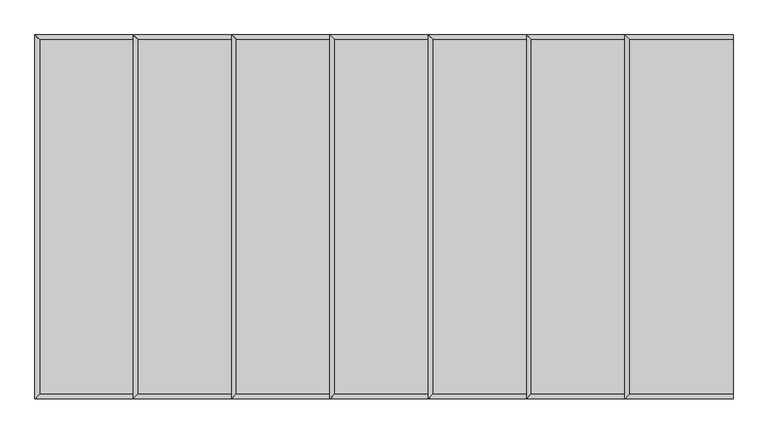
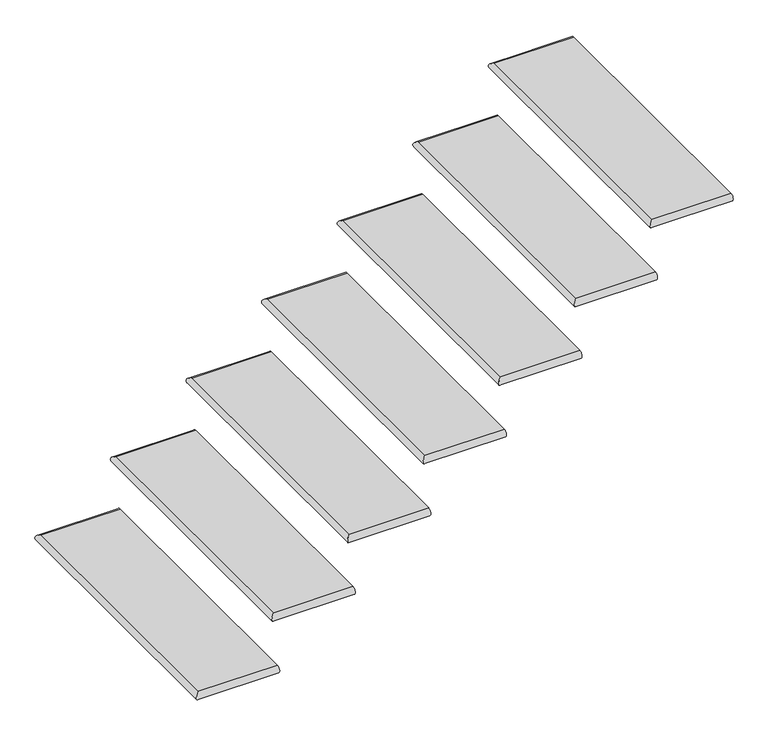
"""IFC4 building model written with IfcOpenShell, lengths in millimetres: stair flight geometry."""

from ifc_helpers import new_model, si_unit, frame, origin, place, context, project, spatial, circle_curve, ellipse_curve, source, transform, mapped, element, save
from ifc_brep_helpers import plane_surface, cylinder_surface, advanced_brep


def stair_flight_d73f07cf(model_context):
    return source(origin(), model_context, "Body", "AdvancedBrep", [
        advanced_brep(
        [(-17769.3481446, -11284.0871906, 165.1), (-17769.3481446, -11284.0871906, 190.5), (-17769.3481446, -10369.6871906, 190.5), (-17769.3481446, -10369.6871906, 165.1), (-17502.6481446, -11284.0871906, 190.5), (-17502.6481446, -10369.6871906, 190.5), (-17502.6481446, -10369.6871906, 165.1), (-17502.6481446, -11284.0871906, 165.1)],
        [
            (0, 1, ellipse_curve(frame((-17769.3481446, -11284.0871906, 177.8), z_axis=(-0.7071067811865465, 0.7071067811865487, 0.0), x_axis=(-0.7071067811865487, -0.7071067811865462, 0.0)), 17.9605122, 12.7)),
            (1, 2),
            (2, 3, ellipse_curve(frame((-17769.3481446, -10369.6871906, 177.8), z_axis=(-0.7071067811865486, -0.7071067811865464, 0.0), x_axis=(0.7071067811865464, -0.7071067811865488, 0.0)), 17.9605122, 12.7)),
            (3, 0),
            (4, 5),
            (5, 2),
            (1, 4),
            (6, 7),
            (7, 0),
            (3, 6),
            (4, 7, circle_curve(frame((-17502.6481446, -11284.0871906, 177.8), z_axis=(1.0, 0.0, 0.0), x_axis=(0.0, 1.0, 0.0)), 12.7)),
            (6, 5, circle_curve(frame((-17502.6481446, -10369.6871906, 177.8), z_axis=(1.0, 0.0, 0.0), x_axis=(0.0, -1.0, 0.0)), 12.7)),
        ],
        [
            cylinder_surface(frame((-17769.3481446, -11284.0871906, 177.8), z_axis=(0.0, -1.0, 0.0), x_axis=(1.0, 0.0, 0.0)), 12.7),
            plane_surface(frame((-17782.0481446, -10369.6871906, 190.5), z_axis=(0.0, 0.0, 1.0), x_axis=(-1.0, 0.0, 0.0))),
            plane_surface(frame((-17782.0481446, -10369.6871906, 165.1), z_axis=(0.0, 0.0, -1.0), x_axis=(1.0, 0.0, 0.0))),
            plane_surface(frame((-17502.6481446, -11284.0871906, 190.5), z_axis=(1.0, 0.0, 0.0), x_axis=(0.0, 0.0, -1.0))),
            cylinder_surface(frame((-17502.6481446, -11284.0871906, 177.8), z_axis=(1.0, 0.0, 0.0), x_axis=(0.0, 1.0, 0.0)), 12.7),
            cylinder_surface(frame((-17769.3481446, -10369.6871906, 177.8), z_axis=(-1.0, 0.0, 0.0), x_axis=(0.0, -1.0, 0.0)), 12.7),
        ],
        [
            (0, [[1, 2, 3, 4]]),
            (1, [[5, 6, -2, 7]]),
            (2, [[8, 9, -4, 10]]),
            (3, [[-5, 11, -8, 12]]),
            (4, [[-11, -7, -1, -9]]),
            (5, [[-3, -6, -12, -10]]),
        ],
    ),
        advanced_brep(
        [(-15978.6481446, -11284.0871906, 1333.5), (-15978.6481446, -10369.6871906, 1333.5), (-16245.3481446, -10369.6871906, 1333.5), (-16245.3481446, -11284.0871906, 1333.5), (-16004.0481446, -11284.0871906, 1333.5), (-15978.6481446, -10369.6871906, 1308.1), (-15978.6481446, -11284.0871906, 1308.1), (-16004.0481446, -11284.0871906, 1308.1), (-16245.3481446, -11284.0871906, 1308.1), (-16245.3481446, -10369.6871906, 1308.1)],
        [
            (0, 1),
            (1, 2),
            (2, 3),
            (3, 4),
            (4, 0),
            (5, 6),
            (6, 7),
            (7, 8),
            (8, 9),
            (9, 5),
            (0, 6, circle_curve(frame((-15978.6481446, -11284.0871906, 1320.8), z_axis=(1.0, 0.0, 0.0), x_axis=(0.0, 1.0, 0.0)), 12.7)),
            (5, 1, circle_curve(frame((-15978.6481446, -10369.6871906, 1320.8), z_axis=(1.0, 0.0, 0.0), x_axis=(0.0, -1.0, 0.0)), 12.7)),
            (8, 3, ellipse_curve(frame((-16245.3481446, -11284.0871906, 1320.8), z_axis=(-0.7071067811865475, 0.7071067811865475, 0.0), x_axis=(-0.7071067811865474, -0.7071067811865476, 0.0)), 17.9605122, 12.7)),
            (2, 9, ellipse_curve(frame((-16245.3481446, -10369.6871906, 1320.8), z_axis=(-0.7071067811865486, -0.7071067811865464, 0.0), x_axis=(0.7071067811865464, -0.7071067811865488, 0.0)), 17.9605122, 12.7)),
        ],
        [
            plane_surface(frame((-17782.0481446, -10369.6871906, 1333.5), z_axis=(0.0, 0.0, 1.0), x_axis=(-1.0, 0.0, 0.0))),
            plane_surface(frame((-17782.0481446, -10369.6871906, 1308.1), z_axis=(0.0, 0.0, -1.0), x_axis=(1.0, 0.0, 0.0))),
            plane_surface(frame((-15978.6481446, -11284.0871906, 1333.5), z_axis=(1.0, 0.0, 0.0), x_axis=(0.0, 0.0, -1.0))),
            cylinder_surface(frame((-16245.3481446, -11284.0871906, 1320.8), z_axis=(0.0, -1.0, 0.0), x_axis=(1.0, 0.0, 0.0)), 12.7),
            cylinder_surface(frame((-15978.6481446, -11284.0871906, 1320.8), z_axis=(1.0, 0.0, 0.0), x_axis=(0.0, 1.0, 0.0)), 12.7),
            cylinder_surface(frame((-16245.3481446, -10369.6871906, 1320.8), z_axis=(-1.0, 0.0, 0.0), x_axis=(0.0, -1.0, 0.0)), 12.7),
        ],
        [
            (0, [[1, 2, 3, 4, 5]]),
            (1, [[6, 7, 8, 9, 10]]),
            (2, [[-1, 11, -6, 12]]),
            (3, [[13, -3, 14, -9]]),
            (4, [[-11, -5, -4, -13, -8, -7]]),
            (5, [[-14, -2, -12, -10]]),
        ],
    ),
        advanced_brep(
        [(-17248.6481446, -11284.0871906, 381.0), (-17248.6481446, -10369.6871906, 381.0), (-17515.3481446, -10369.6871906, 381.0), (-17515.3481446, -11284.0871906, 381.0), (-17248.6481446, -10369.6871906, 355.6), (-17248.6481446, -11284.0871906, 355.6), (-17515.3481446, -11284.0871906, 355.6), (-17515.3481446, -10369.6871906, 355.6)],
        [
            (0, 1),
            (1, 2),
            (2, 3),
            (3, 0),
            (4, 5),
            (5, 6),
            (6, 7),
            (7, 4),
            (0, 5, circle_curve(frame((-17248.6481446, -11284.0871906, 368.3), z_axis=(1.0, 0.0, 0.0), x_axis=(0.0, 1.0, 0.0)), 12.7)),
            (4, 1, circle_curve(frame((-17248.6481446, -10369.6871906, 368.3), z_axis=(1.0, 0.0, 0.0), x_axis=(0.0, -1.0, 0.0)), 12.7)),
            (3, 6, ellipse_curve(frame((-17515.3481446, -11284.0871906, 368.3), z_axis=(0.7071067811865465, -0.7071067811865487, 0.0), x_axis=(0.7071067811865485, 0.7071067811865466, 0.0)), 17.9605122, 12.7)),
            (2, 7, ellipse_curve(frame((-17515.3481446, -10369.6871906, 368.3), z_axis=(-0.7071067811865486, -0.7071067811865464, 0.0), x_axis=(0.7071067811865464, -0.7071067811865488, 0.0)), 17.9605122, 12.7)),
        ],
        [
            plane_surface(frame((-17528.0481446, -10369.6871906, 381.0), z_axis=(0.0, 0.0, 1.0), x_axis=(-1.0, 0.0, 0.0))),
            plane_surface(frame((-17528.0481446, -10369.6871906, 355.6), z_axis=(0.0, 0.0, -1.0), x_axis=(1.0, 0.0, 0.0))),
            plane_surface(frame((-17248.6481446, -11284.0871906, 381.0), z_axis=(1.0, 0.0, 0.0), x_axis=(0.0, 0.0, -1.0))),
            cylinder_surface(frame((-17248.6481446, -11284.0871906, 368.3), z_axis=(1.0, 0.0, 0.0), x_axis=(0.0, 1.0, 0.0)), 12.7),
            cylinder_surface(frame((-17515.3481446, -11284.0871906, 368.3), z_axis=(0.0, -1.0, 0.0), x_axis=(1.0, 0.0, 0.0)), 12.7),
            cylinder_surface(frame((-17515.3481446, -10369.6871906, 368.3), z_axis=(-1.0, 0.0, 0.0), x_axis=(0.0, -1.0, 0.0)), 12.7),
        ],
        [
            (0, [[1, 2, 3, 4]]),
            (1, [[5, 6, 7, 8]]),
            (2, [[-1, 9, -5, 10]]),
            (3, [[-9, -4, 11, -6]]),
            (4, [[-11, -3, 12, -7]]),
            (5, [[-12, -2, -10, -8]]),
        ],
    ),
        advanced_brep(
        [(-16994.6481446, -11284.0871906, 571.5), (-16994.6481446, -10369.6871906, 571.5), (-17261.3481446, -10369.6871906, 571.5), (-17261.3481446, -11284.0871906, 571.5), (-16994.6481446, -10369.6871906, 546.1), (-16994.6481446, -11284.0871906, 546.1), (-17261.3481446, -11284.0871906, 546.1), (-17261.3481446, -10369.6871906, 546.1)],
        [
            (0, 1),
            (1, 2),
            (2, 3),
            (3, 0),
            (4, 5),
            (5, 6),
            (6, 7),
            (7, 4),
            (0, 5, circle_curve(frame((-16994.6481446, -11284.0871906, 558.8), z_axis=(1.0, 0.0, 0.0), x_axis=(0.0, 1.0, 0.0)), 12.7)),
            (4, 1, circle_curve(frame((-16994.6481446, -10369.6871906, 558.8), z_axis=(1.0, 0.0, 0.0), x_axis=(0.0, -1.0, 0.0)), 12.7)),
            (3, 6, ellipse_curve(frame((-17261.3481446, -11284.0871906, 558.8), z_axis=(0.7071067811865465, -0.7071067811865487, 0.0), x_axis=(0.7071067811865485, 0.7071067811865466, 0.0)), 17.9605122, 12.7)),
            (2, 7, ellipse_curve(frame((-17261.3481446, -10369.6871906, 558.8), z_axis=(-0.7071067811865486, -0.7071067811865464, 0.0), x_axis=(0.7071067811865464, -0.7071067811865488, 0.0)), 17.9605122, 12.7)),
        ],
        [
            plane_surface(frame((-17274.0481446, -10369.6871906, 571.5), z_axis=(0.0, 0.0, 1.0), x_axis=(-1.0, 0.0, 0.0))),
            plane_surface(frame((-17274.0481446, -10369.6871906, 546.1), z_axis=(0.0, 0.0, -1.0), x_axis=(1.0, 0.0, 0.0))),
            plane_surface(frame((-16994.6481446, -11284.0871906, 571.5), z_axis=(1.0, 0.0, 0.0), x_axis=(0.0, 0.0, -1.0))),
            cylinder_surface(frame((-16994.6481446, -11284.0871906, 558.8), z_axis=(1.0, 0.0, 0.0), x_axis=(0.0, 1.0, 0.0)), 12.7),
            cylinder_surface(frame((-17261.3481446, -11284.0871906, 558.8), z_axis=(0.0, -1.0, 0.0), x_axis=(1.0, 0.0, 0.0)), 12.7),
            cylinder_surface(frame((-17261.3481446, -10369.6871906, 558.8), z_axis=(-1.0, 0.0, 0.0), x_axis=(0.0, -1.0, 0.0)), 12.7),
        ],
        [
            (0, [[1, 2, 3, 4]]),
            (1, [[5, 6, 7, 8]]),
            (2, [[-1, 9, -5, 10]]),
            (3, [[-9, -4, 11, -6]]),
            (4, [[-11, -3, 12, -7]]),
            (5, [[-12, -2, -10, -8]]),
        ],
    ),
        advanced_brep(
        [(-16740.6481446, -11284.0871906, 762.0), (-16740.6481446, -10369.6871906, 762.0), (-17007.3481446, -10369.6871906, 762.0), (-17007.3481446, -11284.0871906, 762.0), (-16740.6481446, -10369.6871906, 736.6), (-16740.6481446, -11284.0871906, 736.6), (-17007.3481446, -11284.0871906, 736.6), (-17007.3481446, -10369.6871906, 736.6)],
        [
            (0, 1),
            (1, 2),
            (2, 3),
            (3, 0),
            (4, 5),
            (5, 6),
            (6, 7),
            (7, 4),
            (0, 5, circle_curve(frame((-16740.6481446, -11284.0871906, 749.3), z_axis=(1.0, 0.0, 0.0), x_axis=(0.0, 1.0, 0.0)), 12.7)),
            (4, 1, circle_curve(frame((-16740.6481446, -10369.6871906, 749.3), z_axis=(1.0, 0.0, 0.0), x_axis=(0.0, -1.0, 0.0)), 12.7)),
            (3, 6, ellipse_curve(frame((-17007.3481446, -11284.0871906, 749.3), z_axis=(0.7071067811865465, -0.7071067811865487, 0.0), x_axis=(0.7071067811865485, 0.7071067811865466, 0.0)), 17.9605122, 12.7)),
            (2, 7, ellipse_curve(frame((-17007.3481446, -10369.6871906, 749.3), z_axis=(-0.7071067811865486, -0.7071067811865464, 0.0), x_axis=(0.7071067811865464, -0.7071067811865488, 0.0)), 17.9605122, 12.7)),
        ],
        [
            plane_surface(frame((-17020.0481446, -10369.6871906, 762.0), z_axis=(0.0, 0.0, 1.0), x_axis=(-1.0, 0.0, 0.0))),
            plane_surface(frame((-17020.0481446, -10369.6871906, 736.6), z_axis=(0.0, 0.0, -1.0), x_axis=(1.0, 0.0, 0.0))),
            plane_surface(frame((-16740.6481446, -11284.0871906, 762.0), z_axis=(1.0, 0.0, 0.0), x_axis=(0.0, 0.0, -1.0))),
            cylinder_surface(frame((-16740.6481446, -11284.0871906, 749.3), z_axis=(1.0, 0.0, 0.0), x_axis=(0.0, 1.0, 0.0)), 12.7),
            cylinder_surface(frame((-17007.3481446, -11284.0871906, 749.3), z_axis=(0.0, -1.0, 0.0), x_axis=(1.0, 0.0, 0.0)), 12.7),
            cylinder_surface(frame((-17007.3481446, -10369.6871906, 749.3), z_axis=(-1.0, 0.0, 0.0), x_axis=(0.0, -1.0, 0.0)), 12.7),
        ],
        [
            (0, [[1, 2, 3, 4]]),
            (1, [[5, 6, 7, 8]]),
            (2, [[-1, 9, -5, 10]]),
            (3, [[-9, -4, 11, -6]]),
            (4, [[-11, -3, 12, -7]]),
            (5, [[-12, -2, -10, -8]]),
        ],
    ),
        advanced_brep(
        [(-16486.6481446, -11284.0871906, 952.5), (-16486.6481446, -10369.6871906, 952.5), (-16753.3481446, -10369.6871906, 952.5), (-16753.3481446, -11284.0871906, 952.5), (-16486.6481446, -10369.6871906, 927.1), (-16486.6481446, -11284.0871906, 927.1), (-16753.3481446, -11284.0871906, 927.1), (-16753.3481446, -10369.6871906, 927.1)],
        [
            (0, 1),
            (1, 2),
            (2, 3),
            (3, 0),
            (4, 5),
            (5, 6),
            (6, 7),
            (7, 4),
            (0, 5, circle_curve(frame((-16486.6481446, -11284.0871906, 939.8), z_axis=(1.0, 0.0, 0.0), x_axis=(0.0, 1.0, 0.0)), 12.7)),
            (4, 1, circle_curve(frame((-16486.6481446, -10369.6871906, 939.8), z_axis=(1.0, 0.0, 0.0), x_axis=(0.0, -1.0, 0.0)), 12.7)),
            (3, 6, ellipse_curve(frame((-16753.3481446, -11284.0871906, 939.8), z_axis=(0.7071067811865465, -0.7071067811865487, 0.0), x_axis=(0.7071067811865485, 0.7071067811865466, 0.0)), 17.9605122, 12.7)),
            (2, 7, ellipse_curve(frame((-16753.3481446, -10369.6871906, 939.8), z_axis=(-0.7071067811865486, -0.7071067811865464, 0.0), x_axis=(0.7071067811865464, -0.7071067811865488, 0.0)), 17.9605122, 12.7)),
        ],
        [
            plane_surface(frame((-16766.0481446, -10369.6871906, 952.5), z_axis=(0.0, 0.0, 1.0), x_axis=(-1.0, 0.0, 0.0))),
            plane_surface(frame((-16766.0481446, -10369.6871906, 927.1), z_axis=(0.0, 0.0, -1.0), x_axis=(1.0, 0.0, 0.0))),
            plane_surface(frame((-16486.6481446, -11284.0871906, 952.5), z_axis=(1.0, 0.0, 0.0), x_axis=(0.0, 0.0, -1.0))),
            cylinder_surface(frame((-16486.6481446, -11284.0871906, 939.8), z_axis=(1.0, 0.0, 0.0), x_axis=(0.0, 1.0, 0.0)), 12.7),
            cylinder_surface(frame((-16753.3481446, -11284.0871906, 939.8), z_axis=(0.0, -1.0, 0.0), x_axis=(1.0, 0.0, 0.0)), 12.7),
            cylinder_surface(frame((-16753.3481446, -10369.6871906, 939.8), z_axis=(-1.0, 0.0, 0.0), x_axis=(0.0, -1.0, 0.0)), 12.7),
        ],
        [
            (0, [[1, 2, 3, 4]]),
            (1, [[5, 6, 7, 8]]),
            (2, [[-1, 9, -5, 10]]),
            (3, [[-9, -4, 11, -6]]),
            (4, [[-11, -3, 12, -7]]),
            (5, [[-12, -2, -10, -8]]),
        ],
    ),
        advanced_brep(
        [(-16232.6481446, -11284.0871906, 1143.0), (-16232.6481446, -10369.6871906, 1143.0), (-16499.3481446, -10369.6871906, 1143.0), (-16499.3481446, -11284.0871906, 1143.0), (-16232.6481446, -10369.6871906, 1117.6), (-16232.6481446, -11284.0871906, 1117.6), (-16499.3481446, -11284.0871906, 1117.6), (-16499.3481446, -10369.6871906, 1117.6)],
        [
            (0, 1),
            (1, 2),
            (2, 3),
            (3, 0),
            (4, 5),
            (5, 6),
            (6, 7),
            (7, 4),
            (0, 5, circle_curve(frame((-16232.6481446, -11284.0871906, 1130.3), z_axis=(1.0, 0.0, 0.0), x_axis=(0.0, 1.0, 0.0)), 12.7)),
            (4, 1, circle_curve(frame((-16232.6481446, -10369.6871906, 1130.3), z_axis=(1.0, 0.0, 0.0), x_axis=(0.0, -1.0, 0.0)), 12.7)),
            (3, 6, ellipse_curve(frame((-16499.3481446, -11284.0871906, 1130.3), z_axis=(0.7071067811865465, -0.7071067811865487, 0.0), x_axis=(0.7071067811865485, 0.7071067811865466, 0.0)), 17.9605122, 12.7)),
            (2, 7, ellipse_curve(frame((-16499.3481446, -10369.6871906, 1130.3), z_axis=(-0.7071067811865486, -0.7071067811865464, 0.0), x_axis=(0.7071067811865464, -0.7071067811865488, 0.0)), 17.9605122, 12.7)),
        ],
        [
            plane_surface(frame((-16512.0481446, -10369.6871906, 1143.0), z_axis=(0.0, 0.0, 1.0), x_axis=(-1.0, 0.0, 0.0))),
            plane_surface(frame((-16512.0481446, -10369.6871906, 1117.6), z_axis=(0.0, 0.0, -1.0), x_axis=(1.0, 0.0, 0.0))),
            plane_surface(frame((-16232.6481446, -11284.0871906, 1143.0), z_axis=(1.0, 0.0, 0.0), x_axis=(0.0, 0.0, -1.0))),
            cylinder_surface(frame((-16232.6481446, -11284.0871906, 1130.3), z_axis=(1.0, 0.0, 0.0), x_axis=(0.0, 1.0, 0.0)), 12.7),
            cylinder_surface(frame((-16499.3481446, -11284.0871906, 1130.3), z_axis=(0.0, -1.0, 0.0), x_axis=(1.0, 0.0, 0.0)), 12.7),
            cylinder_surface(frame((-16499.3481446, -10369.6871906, 1130.3), z_axis=(-1.0, 0.0, 0.0), x_axis=(0.0, -1.0, 0.0)), 12.7),
        ],
        [
            (0, [[1, 2, 3, 4]]),
            (1, [[5, 6, 7, 8]]),
            (2, [[-1, 9, -5, 10]]),
            (3, [[-9, -4, 11, -6]]),
            (4, [[-11, -3, 12, -7]]),
            (5, [[-12, -2, -10, -8]]),
        ],
    ),
    ])


if __name__ == "__main__":
    model = new_model("IFC4")
    model_context = context("Model", 3, world=origin())
    ifc_project = project(units=[si_unit("LENGTHUNIT", "METRE", prefix="MILLI")], contexts=[model_context])
    site = spatial("IfcSite", under=ifc_project)
    building = spatial("IfcBuilding", under=site)
    placement = place(None, origin())
    stair_flight_shape = stair_flight_d73f07cf(model_context)
    element("IfcStairFlight", 1, ObjectType="Unassigned Steps with 1\" Tread 1\" Nosing", at=placement, inside=building, context=model_context, shape_type="MappedRepresentation", body=[
        mapped(stair_flight_shape, transform((0.0, 0.0, 0.0), x_axis=(1.0, 0.0, 0.0), y_axis=(0.0, 1.0, 0.0), z_axis=(0.0, 0.0, 1.0))),
    ])
    save(model, "model.ifc")
